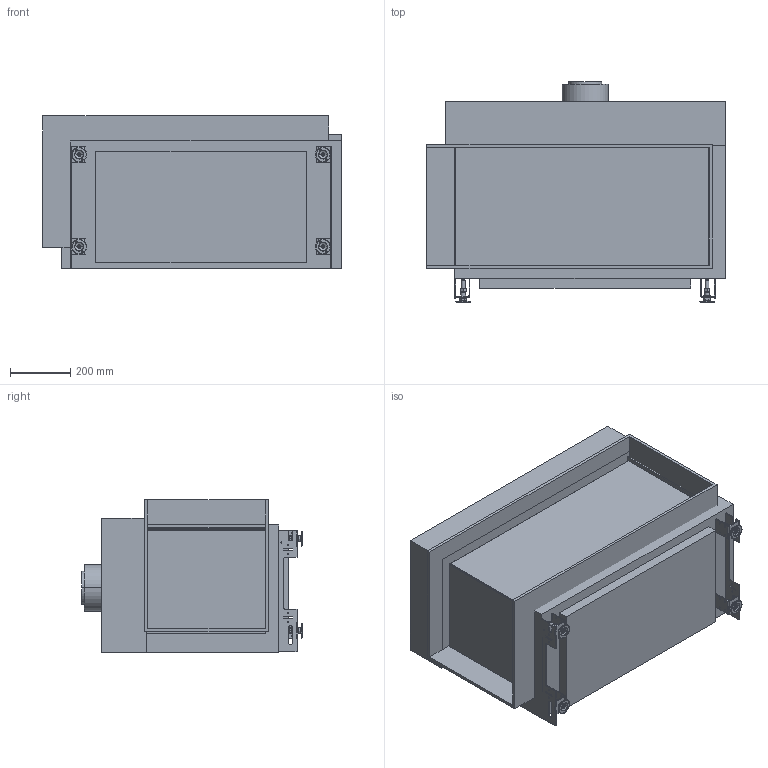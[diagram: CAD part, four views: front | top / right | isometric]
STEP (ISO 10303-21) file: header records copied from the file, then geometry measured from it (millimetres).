
FILE_DESCRIPTION(('Creo Elements/Direct Modeling STEP Export'),'2;1');
FILE_NAME('AVENUE MF 800-40 GHE 2SL.stp','2019-05-13T10:46:11',(''),(''),'PTC Creo Elements/Direct Modeling STEP processor for AP214 (Solid Model)','PTC Creo Elements/Direct Modeling 19.0B 21-Mar-2015 (C) Parametric Technology GmbH','');
FILE_SCHEMA(('AUTOMOTIVE_DESIGN { 1 0 10303 214 1 1 1 1 }'));
Length unit declared in the file: millimetre
Products named in the file (13): FinishingFrame; Options; Floorsupport_plate_AVN; Adjustable_floorsupport_M12.1; FIXED_PART.1; MOVING_PART.1; TUBTARA_M12.1; Hexagon_nut_M12_Din934; Assembly_Floor_support.2.1; AVN_800-40_2SL_Base; Glass; AVN_800-40_2SL; AVENUE_MF_800-40_GHE_2SL
Assembly tree (15 placements, depth 5):
  AVENUE_MF_800-40_GHE_2SL
    AVN_800-40_2SL
      Glass
      AVN_800-40_2SL_Base
      Assembly_Floor_support.2.1  x4
        Hexagon_nut_M12_Din934
        TUBTARA_M12.1
          MOVING_PART.1
          FIXED_PART.1
        Adjustable_floorsupport_M12.1
        Floorsupport_plate_AVN
    Options
      FinishingFrame
Bounding box: 988.1 x 730 x 504 mm (x, y, z)
Volume: 104684480.1 mm3; surface area: 5038661.5 mm2
Topology: 23 solids, 23 shells, 830 faces, 2066 edges, 1327 vertices
Faces by surface type: plane 498, cylinder 212, cone 104, torus 8, sphere 8
Entity records: 12822 total; most frequent: CARTESIAN_POINT 3106, ORIENTED_EDGE 2026, DIRECTION 1772, EDGE_CURVE 1013, VECTOR 670, LINE 670, VERTEX_POINT 655, AXIS2_PLACEMENT_3D 551
